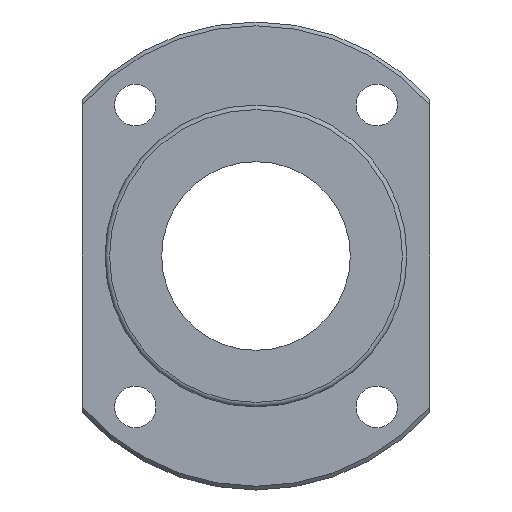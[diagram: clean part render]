
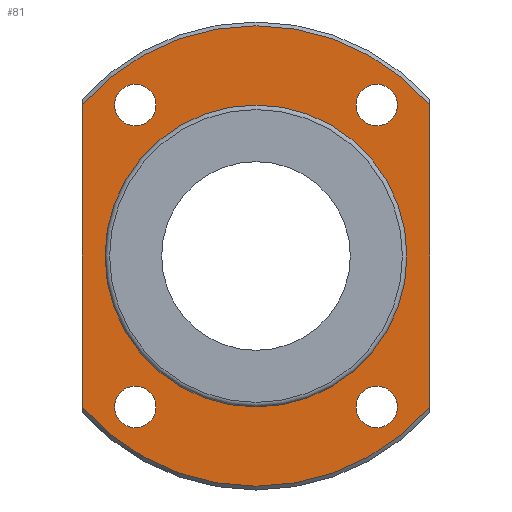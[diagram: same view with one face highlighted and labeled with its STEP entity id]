
A CAD part, left-side view. The second image highlights one B-rep face of the part: STEP entity #81.
In plain terms, the highlighted planar face has unit normal (-1, 0, 0).
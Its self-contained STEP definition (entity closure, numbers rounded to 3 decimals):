
#81=ADVANCED_FACE('',(#126,#127,#128,#129,#130,#131),#132,.T.);
#126=FACE_BOUND('',#225,.T.);
#127=FACE_BOUND('',#226,.T.);
#128=FACE_BOUND('',#227,.T.);
#129=FACE_BOUND('',#228,.T.);
#130=FACE_BOUND('',#229,.T.);
#131=FACE_OUTER_BOUND('',#230,.T.);
#132=PLANE('',#231);
#225=EDGE_LOOP('',(#358));
#226=EDGE_LOOP('',(#359));
#227=EDGE_LOOP('',(#360));
#228=EDGE_LOOP('',(#361));
#229=EDGE_LOOP('',(#362));
#230=EDGE_LOOP('',(#363,#364,#365,#366));
#231=AXIS2_PLACEMENT_3D('',#367,#368,#369);
#358=ORIENTED_EDGE('',*,*,#535,.F.);
#359=ORIENTED_EDGE('',*,*,#536,.F.);
#360=ORIENTED_EDGE('',*,*,#537,.F.);
#361=ORIENTED_EDGE('',*,*,#538,.F.);
#362=ORIENTED_EDGE('',*,*,#539,.F.);
#363=ORIENTED_EDGE('',*,*,#520,.T.);
#364=ORIENTED_EDGE('',*,*,#540,.T.);
#365=ORIENTED_EDGE('',*,*,#541,.T.);
#366=ORIENTED_EDGE('',*,*,#510,.T.);
#367=CARTESIAN_POINT('',(-8.0,25.125,0.));
#368=DIRECTION('',(-1.0,0.,0.));
#369=DIRECTION('',(0.,0.0,1.0));
#510=EDGE_CURVE('',#562,#563,#564,.T.);
#520=EDGE_CURVE('',#563,#580,#582,.T.);
#535=EDGE_CURVE('',#607,#607,#608,.T.);
#536=EDGE_CURVE('',#609,#609,#610,.T.);
#537=EDGE_CURVE('',#611,#611,#612,.T.);
#538=EDGE_CURVE('',#613,#613,#614,.T.);
#539=EDGE_CURVE('',#615,#615,#616,.T.);
#540=EDGE_CURVE('',#580,#617,#618,.T.);
#541=EDGE_CURVE('',#617,#562,#619,.T.);
#562=VERTEX_POINT('',#658);
#563=VERTEX_POINT('',#659);
#564=LINE('',#660,#661);
#580=VERTEX_POINT('',#692);
#582=CIRCLE('',#697,30.5);
#607=VERTEX_POINT('',#730);
#608=CIRCLE('',#731,2.75);
#609=VERTEX_POINT('',#732);
#610=CIRCLE('',#733,2.75);
#611=VERTEX_POINT('',#734);
#612=CIRCLE('',#735,2.75);
#613=VERTEX_POINT('',#736);
#614=CIRCLE('',#737,2.75);
#615=VERTEX_POINT('',#738);
#616=CIRCLE('',#739,19.75);
#617=VERTEX_POINT('',#740);
#618=LINE('',#741,#742);
#619=CIRCLE('',#743,30.5);
#658=CARTESIAN_POINT('',(-8.0,23.0,20.031));
#659=CARTESIAN_POINT('',(-8.0,23.0,-20.031));
#660=CARTESIAN_POINT('',(-8.0,23.0,0.));
#661=VECTOR('',#786,1.0);
#692=CARTESIAN_POINT('',(-8.0,-23.0,-20.031));
#697=AXIS2_PLACEMENT_3D('',#793,#794,#795);
#730=CARTESIAN_POINT('',(-8.0,-16.0,-17.25));
#731=AXIS2_PLACEMENT_3D('',#828,#829,#830);
#732=CARTESIAN_POINT('',(-8.0,16.0,-17.25));
#733=AXIS2_PLACEMENT_3D('',#831,#832,#833);
#734=CARTESIAN_POINT('',(-8.0,16.0,22.75));
#735=AXIS2_PLACEMENT_3D('',#834,#835,#836);
#736=CARTESIAN_POINT('',(-8.0,-16.0,22.75));
#737=AXIS2_PLACEMENT_3D('',#837,#838,#839);
#738=CARTESIAN_POINT('',(-8.0,19.75,0.));
#739=AXIS2_PLACEMENT_3D('',#840,#841,#842);
#740=CARTESIAN_POINT('',(-8.0,-23.0,20.031));
#741=CARTESIAN_POINT('',(-8.0,-23.0,0.));
#742=VECTOR('',#843,1.0);
#743=AXIS2_PLACEMENT_3D('',#844,#845,#846);
#786=DIRECTION('',(0.,0.,-1.0));
#793=CARTESIAN_POINT('',(-8.0,0.,0.));
#794=DIRECTION('',(-1.0,0.0,0.));
#795=DIRECTION('',(0.0,1.0,0.0));
#828=CARTESIAN_POINT('',(-8.0,-16.0,-20.0));
#829=DIRECTION('',(-1.0,0.,0.));
#830=DIRECTION('',(0.,0.0,1.0));
#831=CARTESIAN_POINT('',(-8.0,16.0,-20.0));
#832=DIRECTION('',(-1.0,0.,0.));
#833=DIRECTION('',(0.,0.0,1.0));
#834=CARTESIAN_POINT('',(-8.0,16.0,20.0));
#835=DIRECTION('',(-1.0,0.,0.));
#836=DIRECTION('',(0.,0.0,1.0));
#837=CARTESIAN_POINT('',(-8.0,-16.0,20.0));
#838=DIRECTION('',(-1.0,0.,0.));
#839=DIRECTION('',(0.,0.0,1.0));
#840=CARTESIAN_POINT('',(-8.0,0.,0.));
#841=DIRECTION('',(-1.0,0.0,0.));
#842=DIRECTION('',(0.0,1.0,0.0));
#843=DIRECTION('',(0.,0.,1.0));
#844=CARTESIAN_POINT('',(-8.0,0.,0.));
#845=DIRECTION('',(-1.0,0.0,0.));
#846=DIRECTION('',(0.0,1.0,0.0));
